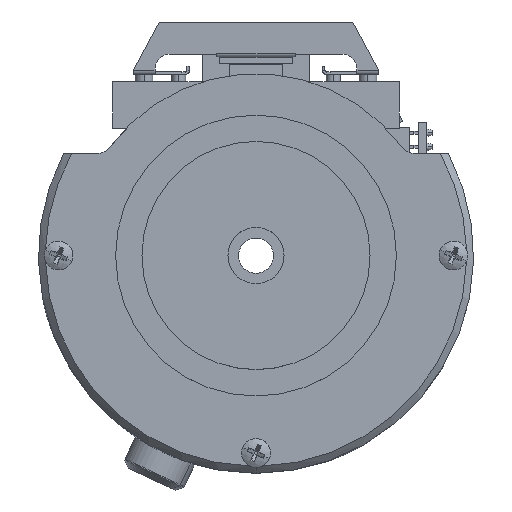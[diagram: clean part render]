
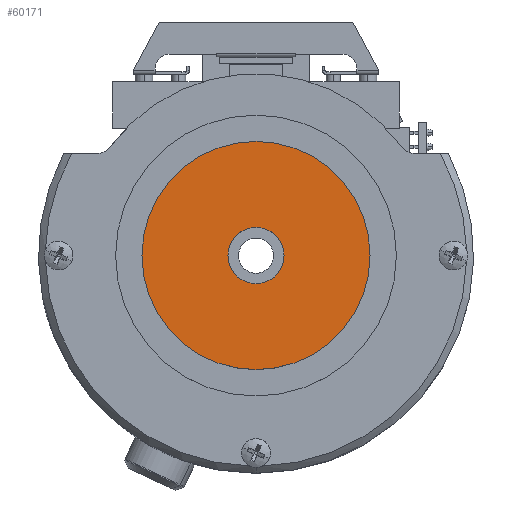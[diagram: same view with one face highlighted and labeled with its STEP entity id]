
A CAD part, top view. The second image highlights one B-rep face of the part: STEP entity #60171.
In plain terms, the highlighted planar face has unit normal (0, 0, 1).
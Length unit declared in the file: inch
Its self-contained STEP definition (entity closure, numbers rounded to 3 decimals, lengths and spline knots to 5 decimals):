
#23391 = CARTESIAN_POINT ( 'NONE',  ( 0., -0.2, 1.055 ) ) ;
#23933 = CIRCLE ( 'NONE', #24000, 0.8125 ) ;
#23945 = CARTESIAN_POINT ( 'NONE',  ( 0., -0.8125, 1.055 ) ) ;
#24000 = AXIS2_PLACEMENT_3D ( 'NONE', #24105, #24102, #24101 ) ;
#24073 = CARTESIAN_POINT ( 'NONE',  ( 0., 0.8125, 1.055 ) ) ;
#24083 = CARTESIAN_POINT ( 'NONE',  ( 0., 0.2, 1.055 ) ) ;
#24101 = DIRECTION ( 'NONE',  ( 0., -1., 0. ) ) ;
#24102 = DIRECTION ( 'NONE',  ( 0., 0., -1. ) ) ;
#24105 = CARTESIAN_POINT ( 'NONE',  ( 0., 0., 1.055 ) ) ;
#24377 = CIRCLE ( 'NONE', #24506, 0.2 ) ;
#24454 = DIRECTION ( 'NONE',  ( 0., -1., 0. ) ) ;
#24455 = DIRECTION ( 'NONE',  ( 0., 0., -1. ) ) ;
#24496 = CARTESIAN_POINT ( 'NONE',  ( 0., 0., 1.055 ) ) ;
#24506 = AXIS2_PLACEMENT_3D ( 'NONE', #24496, #24455, #24454 ) ;
#24930 = CIRCLE ( 'NONE', #25117, 0.2 ) ;
#25114 = DIRECTION ( 'NONE',  ( 0., -1., 0. ) ) ;
#25115 = DIRECTION ( 'NONE',  ( 0., 0., -1. ) ) ;
#25117 = AXIS2_PLACEMENT_3D ( 'NONE', #25134, #25115, #25114 ) ;
#25134 = CARTESIAN_POINT ( 'NONE',  ( 0., 0., 1.055 ) ) ;
#25669 = AXIS2_PLACEMENT_3D ( 'NONE', #25787, #25785, #25782 ) ;
#25671 = PLANE ( 'NONE',  #25669 ) ;
#25677 = FACE_OUTER_BOUND ( 'NONE', #60123, .T. ) ;
#25704 = FACE_BOUND ( 'NONE', #60141, .T. ) ;
#25715 = AXIS2_PLACEMENT_3D ( 'NONE', #25788, #25771, #25768 ) ;
#25768 = DIRECTION ( 'NONE',  ( 0., -1., 0. ) ) ;
#25771 = DIRECTION ( 'NONE',  ( 0., 0., -1. ) ) ;
#25782 = DIRECTION ( 'NONE',  ( 0., 1., 0. ) ) ;
#25785 = DIRECTION ( 'NONE',  ( 0., 0., 1. ) ) ;
#25787 = CARTESIAN_POINT ( 'NONE',  ( 0.8125, 0., 1.055 ) ) ;
#25788 = CARTESIAN_POINT ( 'NONE',  ( 0., 0., 1.055 ) ) ;
#25799 = CIRCLE ( 'NONE', #25715, 0.8125 ) ;
#59953 = VERTEX_POINT ( 'NONE', #23391 ) ;
#60011 = EDGE_CURVE ( 'NONE', #60015, #60020, #23933, .T. ) ;
#60015 = VERTEX_POINT ( 'NONE', #23945 ) ;
#60018 = VERTEX_POINT ( 'NONE', #24083 ) ;
#60020 = VERTEX_POINT ( 'NONE', #24073 ) ;
#60062 = EDGE_CURVE ( 'NONE', #60018, #59953, #24377, .T. ) ;
#60115 = ORIENTED_EDGE ( 'NONE', *, *, #60173, .F. ) ;
#60121 = EDGE_CURVE ( 'NONE', #59953, #60018, #24930, .T. ) ;
#60123 = EDGE_LOOP ( 'NONE', ( #60176, #60115 ) ) ;
#60141 = EDGE_LOOP ( 'NONE', ( #60181, #60170 ) ) ;
#60170 = ORIENTED_EDGE ( 'NONE', *, *, #60062, .T. ) ;
#60171 = ADVANCED_FACE ( 'NONE', ( #25704, #25677 ), #25671, .T. ) ;
#60173 = EDGE_CURVE ( 'NONE', #60020, #60015, #25799, .T. ) ;
#60176 = ORIENTED_EDGE ( 'NONE', *, *, #60011, .F. ) ;
#60181 = ORIENTED_EDGE ( 'NONE', *, *, #60121, .T. ) ;
